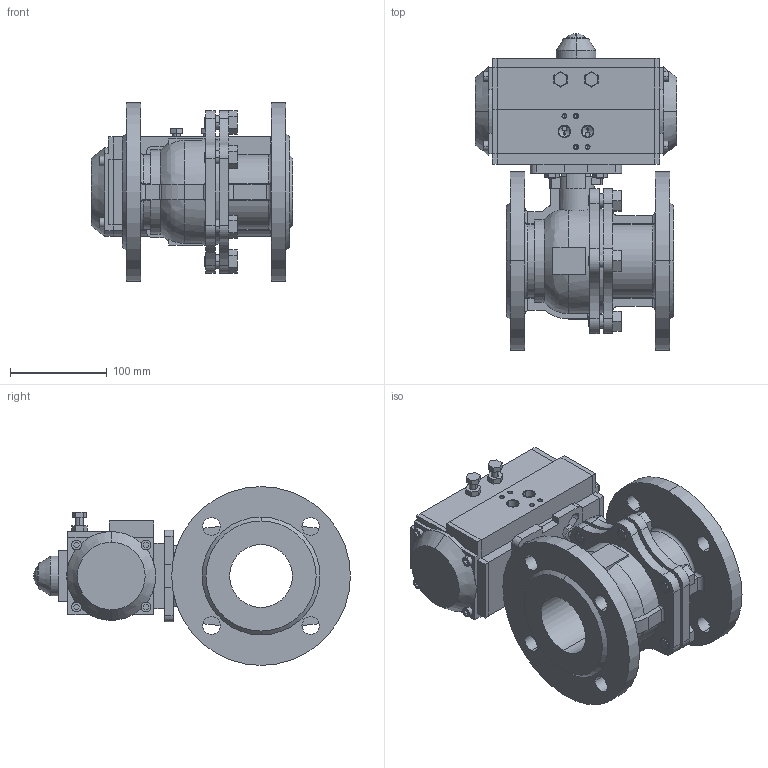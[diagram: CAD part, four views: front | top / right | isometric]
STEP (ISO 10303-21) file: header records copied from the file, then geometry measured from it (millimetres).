
FILE_DESCRIPTION((''),'2;1');
FILE_NAME('BV-22F_RPA_ASM','2024-09-11T',('USER'),(''),'PRO/ENGINEER BY PARAMETRIC TECHNOLOGY CORPORATION, 2011220','PRO/ENGINEER BY PARAMETRIC TECHNOLOGY CORPORATION, 2011220','');
FILE_SCHEMA(('CONFIG_CONTROL_DESIGN'));
Length unit declared in the file: millimetre
Products named in the file (12): KORPUS_KRAN_FL; BOLT_M14X25; SB_KRAN_FL_ASM; KORPUS_PNEVMOPRIVOD; KOLCO_18_GOST13942; KRISKA_VERX; VINT; KRISKA_LEFT; KRISKA_RIGHT; SB_PNEVMOPRIVOD_ASM; B-7798-M8-16; BV-22F_RPA_ASM
Assembly tree (19 placements, depth 3):
  BV-22F_RPA_ASM
    SB_KRAN_FL_ASM
      KORPUS_KRAN_FL
      BOLT_M14X25  x6
    SB_PNEVMOPRIVOD_ASM
      KORPUS_PNEVMOPRIVOD
      KOLCO_18_GOST13942
      KRISKA_VERX
      VINT
      KRISKA_LEFT
      KRISKA_RIGHT
    B-7798-M8-16  x4
Bounding box: 209 x 327.93 x 185 mm (x, y, z)
Volume: 3455509.6 mm3; surface area: 448214.1 mm2
Topology: 17 solids, 55 shells, 850 faces, 2209 edges, 1429 vertices
Faces by surface type: plane 434, cylinder 314, cone 78, torus 12, bspline 10, sphere 2
Entity records: 23456 total; most frequent: CARTESIAN_POINT 4848, DIRECTION 3997, ORIENTED_EDGE 3626, EDGE_CURVE 1875, AXIS2_PLACEMENT_3D 1436, VERTEX_POINT 1241, VECTOR 1125, LINE 1125
